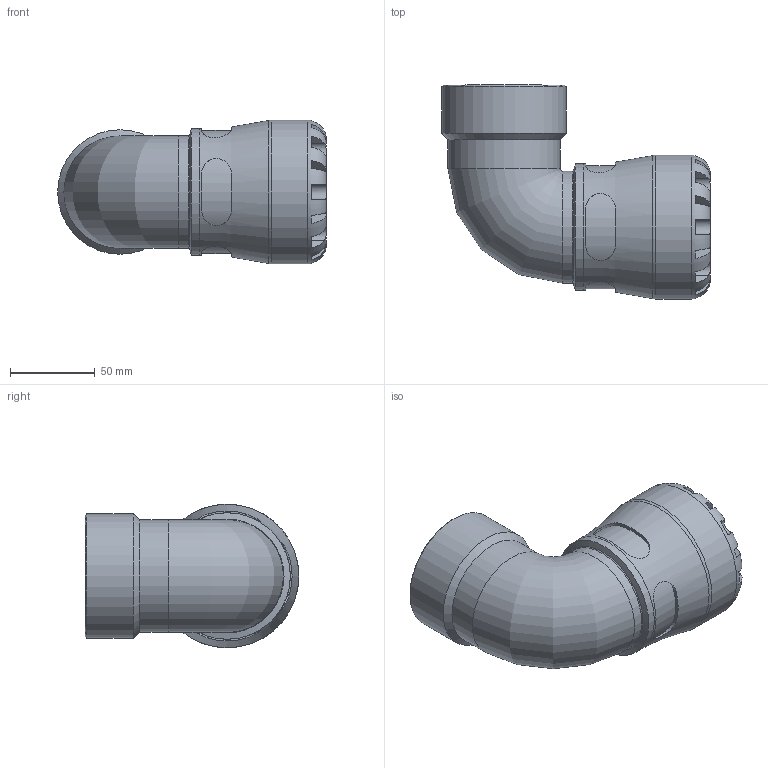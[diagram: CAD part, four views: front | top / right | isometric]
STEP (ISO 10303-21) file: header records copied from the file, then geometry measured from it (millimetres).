
FILE_DESCRIPTION(/* description */ ('PLASSON 90° ELBOW WITH FEMALE INTEGRAL BRASS 50X2" SERIES 1'),/* implementation_level */ '2;1');
FILE_NAME(/* name */ 'C:\Dropbox\KIMPROJECTS-Inventor\99-16-3568-Processing\S1\1076\107600050020_197600050020.ipt.stp',/* time_stamp */ '2018-05-13T11:03:04+03:00',/* author */ ('KIM'),/* organization */ (''),/* preprocessor_version */ 'ST-DEVELOPER v15.6',/* originating_system */ 'Autodesk Inventor 2015',/* authorisation */ '');
FILE_SCHEMA (('AUTOMOTIVE_DESIGN { 1 0 10303 214 3 1 1 }'));
Length unit declared in the file: millimetre
Products named in the file (1): 107600050020_197600050020
Bounding box: 158.83 x 126.5 x 85 mm (x, y, z)
Volume: 406058.2 mm3; surface area: 83513.6 mm2
Topology: 1 solids, 1 shells, 108 faces, 265 edges, 164 vertices
Faces by surface type: plane 60, cylinder 37, torus 6, cone 5
Full cylindrical faces by diameter (mm): 50 x1, 50.99 x2, 56.656 x1, 66.288 x2, 73.653 x1, 74.8 x1, 85 x1
Entity records: 3980 total; most frequent: CARTESIAN_POINT 1455, DIRECTION 488, ORIENTED_EDGE 478, EDGE_CURVE 239, AXIS2_PLACEMENT_3D 204, VERTEX_POINT 159, EDGE_LOOP 136, STYLED_ITEM 109
